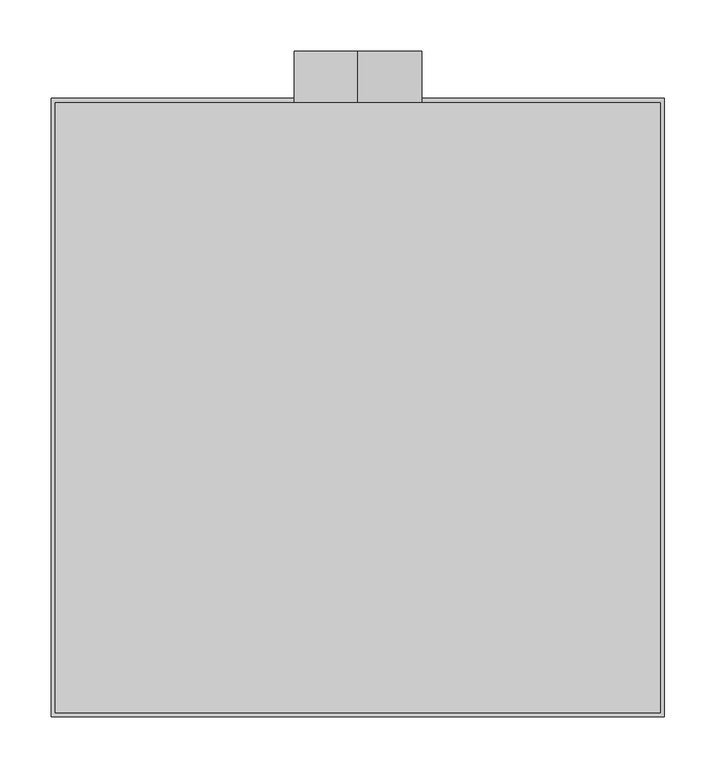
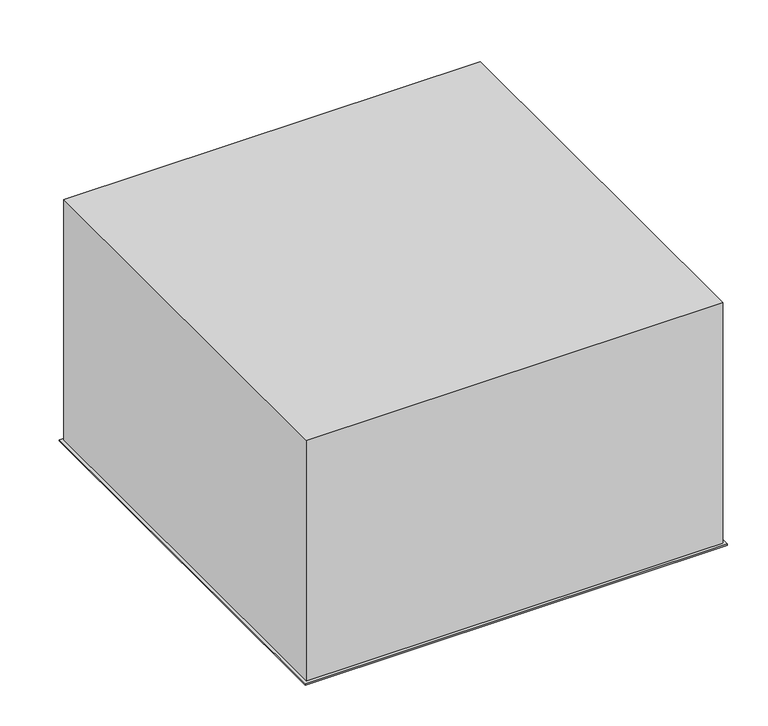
"""IFC4 building model written with IfcOpenShell, lengths in millimetres: air terminal geometry, EOL - plafonnier : EOL-P4-125-600x600."""

from ifc_helpers import new_model, si_unit, point, frame, frame_2d, origin, place, context, project, spatial, polyline, circle_curve, ellipse_curve, trimmed, segment, composite_curve, outline, extrude, source, transform, mapped, element, save
from ifc_brep_helpers import plane_surface, cylinder_surface, revolved_surface, advanced_brep


def air_terminal_8023394d(model_context):
    return source(origin(), model_context, "Body", "SolidModel", [
        advanced_brep(
        [(42.3125856, 336.1251712, 26.7), (70.0, 363.8125856, 1.0), (70.0, 221.1874144, 1.0), (42.3125856, 248.8748288, 26.7), (42.3125856, 336.1251712, 35.0), (42.3125856, 248.8748288, 35.0), (43.3125856, 337.1251712, 26.77286), (43.3125856, 337.1251712, 35.0), (43.3125856, 247.8748288, 35.0), (43.3125856, 247.8748288, 26.77286), (70.0, 363.8125856, 2.0025269), (70.0, 221.1874144, 2.0025269), (-70.0, 221.1874144, 1.0), (-42.3125856, 248.8748288, 26.7), (-42.3125856, 248.8748288, 35.0), (-43.3125856, 247.8748288, 35.0), (-43.3125856, 247.8748288, 26.77286), (-70.0, 221.1874144, 2.0025269), (-70.0, 363.8125856, 1.0), (-42.3125856, 336.1251712, 26.7), (-42.3125856, 336.1251712, 35.0), (-43.3125856, 337.1251712, 35.0), (-43.3125856, 337.1251712, 26.77286), (-70.0, 363.8125856, 2.0025269)],
        [
            (0, 1, ellipse_curve(frame((72.1, 365.9125856, 31.0266548), z_axis=(0.7071067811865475, -0.7071067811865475, 0.0), x_axis=(0.7071067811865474, 0.7071067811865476, 0.0)), 42.5678282, 30.1)),
            (1, 2),
            (2, 3, ellipse_curve(frame((72.1, 219.0874144, 31.0266548), z_axis=(0.7071067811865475, 0.7071067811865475, 0.0), x_axis=(-0.7071067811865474, 0.7071067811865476, 0.0)), 42.5678282, 30.1)),
            (3, 0),
            (4, 0),
            (3, 5),
            (5, 4),
            (6, 7),
            (7, 8),
            (8, 9),
            (9, 6),
            (10, 6, ellipse_curve(frame((72.1, 365.9125856, 31.0266548), z_axis=(-0.7071067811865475, 0.7071067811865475, 0.0), x_axis=(-0.7071067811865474, -0.7071067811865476, 0.0)), 41.1536147, 29.1)),
            (9, 11, ellipse_curve(frame((72.1, 219.0874144, 31.0266548), z_axis=(-0.7071067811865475, -0.7071067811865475, 0.0), x_axis=(0.7071067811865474, -0.7071067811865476, 0.0)), 41.1536147, 29.1)),
            (11, 10),
            (1, 10),
            (11, 2),
            (2, 12),
            (12, 13, ellipse_curve(frame((-72.1, 219.0874144, 31.0266548), z_axis=(0.7071067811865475, -0.7071067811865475, 0.0), x_axis=(0.7071067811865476, 0.7071067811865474, 0.0)), 42.5678282, 30.1)),
            (13, 3),
            (13, 14),
            (14, 5),
            (8, 15),
            (15, 16),
            (16, 9),
            (16, 17, ellipse_curve(frame((-72.1, 219.0874144, 31.0266548), z_axis=(-0.7071067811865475, 0.7071067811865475, 0.0), x_axis=(-0.7071067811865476, -0.7071067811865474, 0.0)), 41.1536147, 29.1)),
            (17, 11),
            (17, 12),
            (12, 18),
            (18, 19, ellipse_curve(frame((-72.1, 365.9125856, 31.0266548), z_axis=(-0.7071067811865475, -0.7071067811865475, 0.0), x_axis=(0.7071067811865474, -0.7071067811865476, 0.0)), 42.5678282, 30.1)),
            (19, 13),
            (19, 20),
            (20, 14),
            (15, 21),
            (21, 22),
            (22, 16),
            (22, 23, ellipse_curve(frame((-72.1, 365.9125856, 31.0266548), z_axis=(0.7071067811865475, 0.7071067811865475, 0.0), x_axis=(-0.7071067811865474, 0.7071067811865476, 0.0)), 41.1536147, 29.1)),
            (23, 17),
            (23, 18),
            (18, 1),
            (0, 19),
            (4, 20),
            (7, 21),
            (6, 22),
            (10, 23),
        ],
        [
            cylinder_surface(frame((72.1, 335.8125856, 31.0266548), z_axis=(0.0, 1.0, 0.0), x_axis=(1.0, 0.0, 0.0)), 30.1),
            plane_surface(frame((42.3125856, 336.1251712, 26.7), z_axis=(-1.0, 0.0, 0.0), x_axis=(0.0, -1.0, 0.0))),
            plane_surface(frame((43.3125856, 337.1251712, 35.0), z_axis=(1.0, 0.0, 0.0), x_axis=(0.0, -1.0, 0.0))),
            revolved_surface(polyline([(101.19999999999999, 189.98741437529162, 31.0266548), (101.19999999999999, 395.0125856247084, 31.0266548)]), (72.1, 335.8125856, 31.0266548), (0.0, -1.0, 0.0)),
            plane_surface(frame((70.0, 363.8125856, 2.0025269), z_axis=(1.0, 0.0, 0.0), x_axis=(0.0, -1.0, 0.0))),
            cylinder_surface(frame((42.0, 219.0874144, 31.0266548), z_axis=(1.0, 0.0, 0.0), x_axis=(0.0, -1.0, 0.0)), 30.1),
            plane_surface(frame((42.3125856, 248.8748288, 26.7), z_axis=(0.0, 1.0, 0.0), x_axis=(-1.0, 0.0, 0.0))),
            plane_surface(frame((43.3125856, 247.8748288, 35.0), z_axis=(0.0, -1.0, 0.0), x_axis=(-1.0, 0.0, 0.0))),
            revolved_surface(polyline([(-101.20000002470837, 189.9874144, 31.0266548), (101.20000002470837, 189.9874144, 31.0266548)]), (42.0, 219.0874144, 31.0266548), (-1.0, 0.0, 0.0)),
            plane_surface(frame((70.0, 221.1874144, 2.0025269), z_axis=(0.0, -1.0, 0.0), x_axis=(-1.0, 0.0, 0.0))),
            cylinder_surface(frame((-72.1, 249.1874144, 31.0266548), z_axis=(0.0, -1.0, 0.0), x_axis=(-1.0, 0.0, 0.0)), 30.1),
            plane_surface(frame((-42.3125856, 248.8748288, 26.7), z_axis=(1.0, 0.0, 0.0), x_axis=(0.0, 1.0, 0.0))),
            plane_surface(frame((-43.3125856, 247.8748288, 35.0), z_axis=(-1.0, 0.0, 0.0), x_axis=(0.0, 1.0, 0.0))),
            revolved_surface(polyline([(-101.19999999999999, 395.0125856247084, 31.0266548), (-101.19999999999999, 189.98741437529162, 31.0266548)]), (-72.1, 249.1874144, 31.0266548), (0.0, 1.0, 0.0)),
            plane_surface(frame((-70.0, 221.1874144, 2.0025269), z_axis=(-1.0, 0.0, 0.0), x_axis=(0.0, 1.0, 0.0))),
            cylinder_surface(frame((-42.0, 365.9125856, 31.0266548), z_axis=(-1.0, 0.0, 0.0), x_axis=(0.0, 1.0, 0.0)), 30.1),
            plane_surface(frame((-42.3125856, 336.1251712, 26.7), z_axis=(0.0, -1.0, 0.0), x_axis=(1.0, 0.0, 0.0))),
            plane_surface(frame((-42.3125856, 336.1251712, 35.0), z_axis=(0.0, 0.0, 1.0), x_axis=(1.0, 0.0, 0.0))),
            plane_surface(frame((-43.3125856, 337.1251712, 35.0), z_axis=(0.0, 1.0, 0.0), x_axis=(1.0, 0.0, 0.0))),
            revolved_surface(polyline([(101.20000002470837, 395.0125856, 31.0266548), (-101.20000002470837, 395.0125856, 31.0266548)]), (-42.0, 365.9125856, 31.0266548), (1.0, 0.0, 0.0)),
            plane_surface(frame((-70.0, 363.8125856, 2.0025269), z_axis=(0.0, 1.0, 0.0), x_axis=(1.0, 0.0, 0.0))),
        ],
        [
            (0, [[1, 2, 3, 4]]),
            (1, [[5, -4, 6, 7]]),
            (2, [[8, 9, 10, 11]]),
            (3, [[12, -11, 13, 14]]),
            (4, [[15, -14, 16, -2]]),
            (5, [[-3, 17, 18, 19]]),
            (6, [[-6, -19, 20, 21]]),
            (7, [[-10, 22, 23, 24]]),
            (8, [[-13, -24, 25, 26]]),
            (9, [[-16, -26, 27, -17]]),
            (10, [[-18, 28, 29, 30]]),
            (11, [[-20, -30, 31, 32]]),
            (12, [[-23, 33, 34, 35]]),
            (13, [[-25, -35, 36, 37]]),
            (14, [[-27, -37, 38, -28]]),
            (15, [[-29, 39, -1, 40]]),
            (16, [[-31, -40, -5, 41]]),
            (17, [[42, -33, -22, -9], [-21, -32, -41, -7]]),
            (18, [[-34, -42, -8, 43]]),
            (19, [[-36, -43, -12, 44]]),
            (20, [[-38, -44, -15, -39]]),
        ],
    ),
        extrude(outline(polyline([(299.0, 594.0), (299.0, -9.0), (-299.0, -9.0), (-299.0, 594.0), (299.0, 594.0)]), holes=[polyline([(290.0, 585.0), (-290.0, 585.0), (-290.0, 0.0), (290.0, 0.0), (290.0, 585.0)])]), frame((0.0, 0.0, -2.0), z_axis=(0.0, 0.0, 1.0), x_axis=(1.0, 0.0, 0.0)), (0.0, 0.0, 1.0), 2.0),
        extrude(outline(composite_curve([segment(trimmed(circle_curve(frame_2d((241.0, 0.0)), 62.5), [point((178.5, 0.0))], [point((303.5, 0.0))], False, "CARTESIAN"), True, "CONTINUOUS"), segment(trimmed(circle_curve(frame_2d((241.0, 0.0)), 62.5), [point((303.5, 0.0))], [point((178.5, 0.0))], False, "CARTESIAN"), True, "CONTINUOUS")], self_intersect=False), holes=[composite_curve([segment(trimmed(circle_curve(frame_2d((241.0, 0.0)), 61.5), [point((241.0, 61.5))], [point((241.0, -61.5))], True, "CARTESIAN"), True, "CONTINUOUS"), segment(trimmed(circle_curve(frame_2d((241.0, 0.0)), 61.5), [point((241.0, -61.5))], [point((241.0, 61.5))], True, "CARTESIAN"), True, "CONTINUOUS")], self_intersect=False)]), frame((0.0, 590.0, 0.0), z_axis=(0.0, 1.0, 0.0), x_axis=(0.0, 0.0, 1.0)), (0.0, 0.0, 1.0), 50.0),
        advanced_brep(
        [(295.0, 590.0, 361.0), (-295.0, 590.0, 361.0), (-295.0, -5.0, 361.0), (295.0, -5.0, 361.0), (295.0, 590.0, 0.0), (295.0, -5.0, 0.0), (-295.0, -5.0, 0.0), (-295.0, 590.0, 0.0), (290.0, 585.0, 0.0), (-290.0, 585.0, 0.0), (-290.0, 0.0, 0.0), (290.0, 0.0, 0.0), (-61.5, 590.0, 241.0), (61.5, 590.0, 241.0), (290.0, 585.0, 356.0), (290.0, 0.0, 356.0), (-290.0, 0.0, 356.0), (-290.0, 585.0, 356.0), (61.5, 585.0, 241.0), (-61.5, 585.0, 241.0)],
        [
            (0, 1),
            (1, 2),
            (2, 3),
            (3, 0),
            (4, 5),
            (5, 6),
            (6, 7),
            (7, 4),
            (8, 9),
            (9, 10),
            (10, 11),
            (11, 8),
            (0, 4),
            (7, 1),
            (12, 13, circle_curve(frame((0.0, 590.0, 241.0), z_axis=(0.0, -1.0, 0.0), x_axis=(1.0, 0.0, 0.0)), 61.5)),
            (13, 12, circle_curve(frame((0.0, 590.0, 241.0), z_axis=(0.0, -1.0, 0.0), x_axis=(1.0, 0.0, 0.0)), 61.5)),
            (6, 2),
            (5, 3),
            (14, 15),
            (15, 16),
            (16, 17),
            (17, 14),
            (17, 9),
            (8, 14),
            (18, 19, circle_curve(frame((0.0, 585.0, 241.0), z_axis=(0.0, 1.0, 0.0), x_axis=(1.0, 0.0, 0.0)), 61.5)),
            (19, 18, circle_curve(frame((0.0, 585.0, 241.0), z_axis=(0.0, 1.0, 0.0), x_axis=(1.0, 0.0, 0.0)), 61.5)),
            (16, 10),
            (15, 11),
            (12, 19),
            (18, 13),
        ],
        [
            plane_surface(frame((-295.0, 590.0, 361.0), z_axis=(0.0, 0.0, 1.0), x_axis=(-1.0, 0.0, 0.0))),
            plane_surface(frame((-295.0, 590.0, 0.0), z_axis=(0.0, 0.0, -1.0), x_axis=(1.0, 0.0, 0.0))),
            plane_surface(frame((295.0, 590.0, 361.0), z_axis=(0.0, 1.0, 0.0), x_axis=(0.0, 0.0, -1.0))),
            plane_surface(frame((-295.0, 590.0, 361.0), z_axis=(-1.0, 0.0, 0.0), x_axis=(0.0, 0.0, -1.0))),
            plane_surface(frame((-295.0, -5.0, 361.0), z_axis=(0.0, -1.0, 0.0), x_axis=(0.0, 0.0, -1.0))),
            plane_surface(frame((295.0, -5.0, 361.0), z_axis=(1.0, 0.0, 0.0), x_axis=(0.0, 0.0, -1.0))),
            plane_surface(frame((-290.0, 585.0, 356.0), z_axis=(0.0, 0.0, -1.0), x_axis=(-1.0, 0.0, 0.0))),
            plane_surface(frame((290.0, 585.0, 356.0), z_axis=(0.0, -1.0, 0.0), x_axis=(0.0, 0.0, -1.0))),
            plane_surface(frame((-290.0, 585.0, 356.0), z_axis=(1.0, 0.0, 0.0), x_axis=(0.0, 0.0, -1.0))),
            plane_surface(frame((-290.0, 0.0, 356.0), z_axis=(0.0, 1.0, 0.0), x_axis=(0.0, 0.0, -1.0))),
            plane_surface(frame((290.0, 0.0, 356.0), z_axis=(-1.0, 0.0, 0.0), x_axis=(0.0, 0.0, -1.0))),
            revolved_surface(polyline([(61.5, 585.0, 241.0), (61.5, 590.0, 241.0)]), (0.0, 640.0, 241.0), (0.0, -1.0, 0.0)),
        ],
        [
            (0, [[1, 2, 3, 4]]),
            (1, [[5, 6, 7, 8], [9, 10, 11, 12]]),
            (2, [[-1, 13, -8, 14], [15, 16]]),
            (3, [[-2, -14, -7, 17]]),
            (4, [[-3, -17, -6, 18]]),
            (5, [[-4, -18, -5, -13]]),
            (6, [[19, 20, 21, 22]]),
            (7, [[-22, 23, -9, 24], [25, 26]]),
            (8, [[-21, 27, -10, -23]]),
            (9, [[-20, 28, -11, -27]]),
            (10, [[-19, -24, -12, -28]]),
            (11, [[29, -25, 30, -15]]),
            (11, [[-29, -16, -30, -26]]),
        ],
    ),
    ])


if __name__ == "__main__":
    model = new_model("IFC4")
    model_context = context("Model", 3, world=origin())
    ifc_project = project(units=[si_unit("LENGTHUNIT", "METRE", prefix="MILLI")], contexts=[model_context])
    site = spatial("IfcSite", under=ifc_project)
    building = spatial("IfcBuilding", under=site)
    placement = place(None, origin())
    air_terminal_shape = air_terminal_8023394d(model_context)
    element("IfcAirTerminal", 1, ObjectType="EOL - plafonnier : EOL-P4-125-600x600", at=placement, inside=building, context=model_context, shape_type="MappedRepresentation", body=[
        mapped(air_terminal_shape, transform((0.0, 0.0, 0.0), x_axis=(1.0, 0.0, 0.0), y_axis=(0.0, 1.0, 0.0), z_axis=(0.0, 0.0, 1.0))),
    ])
    save(model, "model.ifc")
